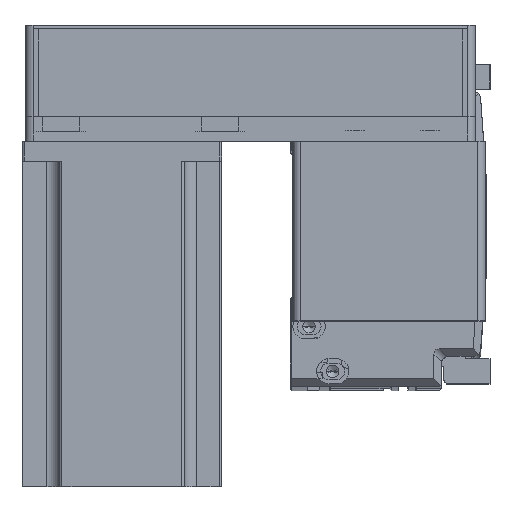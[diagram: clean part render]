
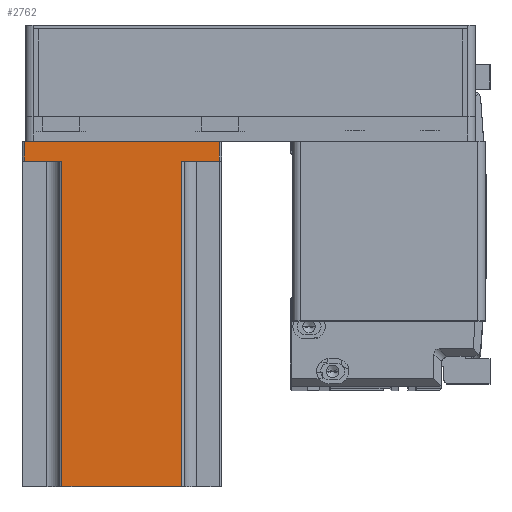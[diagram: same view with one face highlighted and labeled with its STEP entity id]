
A CAD part, top view. The second image highlights one B-rep face of the part: STEP entity #2762.
In plain terms, the highlighted planar face has unit normal (0, 0, 1) as drawn and (0, 1, 0) by its records, which use the part's own axes.
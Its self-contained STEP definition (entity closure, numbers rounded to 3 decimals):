
#731 = VERTEX_POINT ( 'NONE', #29323 ) ;
#1030 = EDGE_CURVE ( 'NONE', #37657, #23374, #11634, .T. ) ;
#1288 = VECTOR ( 'NONE', #46721, 1000. ) ;
#2454 = CARTESIAN_POINT ( 'NONE',  ( 39., 40., 8. ) ) ;
#2762 = ADVANCED_FACE ( 'NONE', ( #38007 ), #37497, .F. ) ;
#5035 = CARTESIAN_POINT ( 'NONE',  ( 39., 40., 138.3 ) ) ;
#5106 = VERTEX_POINT ( 'NONE', #31807 ) ;
#5293 = CARTESIAN_POINT ( 'NONE',  ( 40., 40., 138.3 ) ) ;
#6036 = EDGE_CURVE ( 'NONE', #40995, #731, #39563, .T. ) ;
#6734 = CARTESIAN_POINT ( 'NONE',  ( -39., 40., 138.3 ) ) ;
#9603 = EDGE_CURVE ( 'NONE', #14791, #5106, #17177, .T. ) ;
#10264 = DIRECTION ( 'NONE',  ( 1., 0., 0. ) ) ;
#10647 = CARTESIAN_POINT ( 'NONE',  ( -39., 40., 8. ) ) ;
#10711 = CARTESIAN_POINT ( 'NONE',  ( 39., 40., 0. ) ) ;
#11634 = LINE ( 'NONE', #37819, #1288 ) ;
#12495 = VECTOR ( 'NONE', #33591, 1000. ) ;
#13097 = DIRECTION ( 'NONE',  ( -1., 0., 0. ) ) ;
#14644 = DIRECTION ( 'NONE',  ( 0., -1., 0. ) ) ;
#14791 = VERTEX_POINT ( 'NONE', #14802 ) ;
#14802 = CARTESIAN_POINT ( 'NONE',  ( 24., 40., 138.3 ) ) ;
#15957 = VECTOR ( 'NONE', #23825, 1000. ) ;
#16136 = ORIENTED_EDGE ( 'NONE', *, *, #6036, .F. ) ;
#16787 = ORIENTED_EDGE ( 'NONE', *, *, #20622, .T. ) ;
#17136 = LINE ( 'NONE', #35249, #15957 ) ;
#17177 = LINE ( 'NONE', #5293, #26206 ) ;
#17812 = VECTOR ( 'NONE', #39714, 1000. ) ;
#17963 = EDGE_CURVE ( 'NONE', #19225, #37488, #31168, .T. ) ;
#19225 = VERTEX_POINT ( 'NONE', #10647 ) ;
#20622 = EDGE_CURVE ( 'NONE', #40995, #37657, #47319, .T. ) ;
#21040 = EDGE_LOOP ( 'NONE', ( #27615, #26988, #29700, #33734, #16136, #16787, #45334, #46445 ) ) ;
#22365 = CARTESIAN_POINT ( 'NONE',  ( 24., 40., 138.3 ) ) ;
#22697 = LINE ( 'NONE', #22365, #12495 ) ;
#23374 = VERTEX_POINT ( 'NONE', #32949 ) ;
#23825 = DIRECTION ( 'NONE',  ( 0., 0., 1. ) ) ;
#26206 = VECTOR ( 'NONE', #13097, 1000. ) ;
#26988 = ORIENTED_EDGE ( 'NONE', *, *, #45089, .T. ) ;
#27615 = ORIENTED_EDGE ( 'NONE', *, *, #17963, .T. ) ;
#29323 = CARTESIAN_POINT ( 'NONE',  ( 24., 40., 8. ) ) ;
#29700 = ORIENTED_EDGE ( 'NONE', *, *, #9603, .F. ) ;
#30044 = EDGE_CURVE ( 'NONE', #23374, #19225, #31434, .T. ) ;
#31168 = LINE ( 'NONE', #37123, #41440 ) ;
#31434 = LINE ( 'NONE', #6734, #40513 ) ;
#31807 = CARTESIAN_POINT ( 'NONE',  ( -24., 40., 138.3 ) ) ;
#32887 = EDGE_CURVE ( 'NONE', #14791, #731, #22697, .T. ) ;
#32949 = CARTESIAN_POINT ( 'NONE',  ( -39., 40., 0. ) ) ;
#33591 = DIRECTION ( 'NONE',  ( 0., 0., -1. ) ) ;
#33596 = DIRECTION ( 'NONE',  ( 0., 0., 1. ) ) ;
#33734 = ORIENTED_EDGE ( 'NONE', *, *, #32887, .T. ) ;
#34181 = CARTESIAN_POINT ( 'NONE',  ( 25., 40., 8. ) ) ;
#35249 = CARTESIAN_POINT ( 'NONE',  ( -24., 40., 138.3 ) ) ;
#37123 = CARTESIAN_POINT ( 'NONE',  ( -25., 40., 8. ) ) ;
#37488 = VERTEX_POINT ( 'NONE', #40460 ) ;
#37497 = PLANE ( 'NONE',  #42392 ) ;
#37653 = CARTESIAN_POINT ( 'NONE',  ( 40., 40., 138.3 ) ) ;
#37657 = VERTEX_POINT ( 'NONE', #10711 ) ;
#37819 = CARTESIAN_POINT ( 'NONE',  ( 40., 40., 0. ) ) ;
#38007 = FACE_OUTER_BOUND ( 'NONE', #21040, .T. ) ;
#38361 = VECTOR ( 'NONE', #41955, 1000. ) ;
#39563 = LINE ( 'NONE', #34181, #38361 ) ;
#39714 = DIRECTION ( 'NONE',  ( 0., 0., -1. ) ) ;
#40460 = CARTESIAN_POINT ( 'NONE',  ( -24., 40., 8. ) ) ;
#40513 = VECTOR ( 'NONE', #33596, 1000. ) ;
#40995 = VERTEX_POINT ( 'NONE', #2454 ) ;
#41440 = VECTOR ( 'NONE', #10264, 1000. ) ;
#41534 = DIRECTION ( 'NONE',  ( 1., 0., 0. ) ) ;
#41955 = DIRECTION ( 'NONE',  ( -1., 0., 0. ) ) ;
#42392 = AXIS2_PLACEMENT_3D ( 'NONE', #37653, #14644, #41534 ) ;
#45089 = EDGE_CURVE ( 'NONE', #37488, #5106, #17136, .T. ) ;
#45334 = ORIENTED_EDGE ( 'NONE', *, *, #1030, .T. ) ;
#46445 = ORIENTED_EDGE ( 'NONE', *, *, #30044, .T. ) ;
#46721 = DIRECTION ( 'NONE',  ( -1., 0., 0. ) ) ;
#47319 = LINE ( 'NONE', #5035, #17812 ) ;
